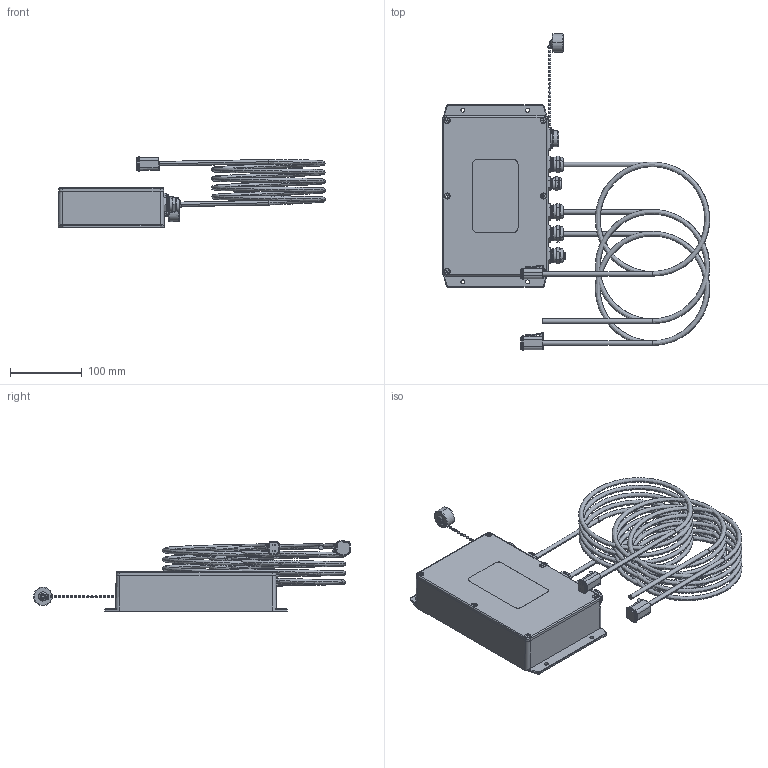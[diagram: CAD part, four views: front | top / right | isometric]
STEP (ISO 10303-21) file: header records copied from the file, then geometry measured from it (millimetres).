
FILE_DESCRIPTION (( 'STEP AP203' ), '1' );
FILE_NAME ('YE-VKG_Box1.STEP', '2014-11-13T16:02:03', ( '' ), ( '' ), 'SwSTEP 2.0', 'SolidWorks 2014', '' );
FILE_SCHEMA (( 'CONFIG_CONTROL_DESIGN' ));
Products named in the file (1): YE-VKG_Box1
Bounding box: 372.78 x 440.98 x 97.85 mm (x, y, z)
Surface area: 296353.1 mm2 (no closed solid volume)
Topology: 0 solids, 64 shells, 703 faces, 2453 edges, 1731 vertices
Faces by surface type: plane 283, cylinder 219, cone 79, sphere 60, torus 43, bspline 19
Entity records: 41204 total; most frequent: CARTESIAN_POINT 21393, DIRECTION 4142, ORIENTED_EDGE 3677, EDGE_CURVE 2313, VERTEX_POINT 1651, AXIS2_PLACEMENT_3D 1521, LINE 1100, VECTOR 1100
